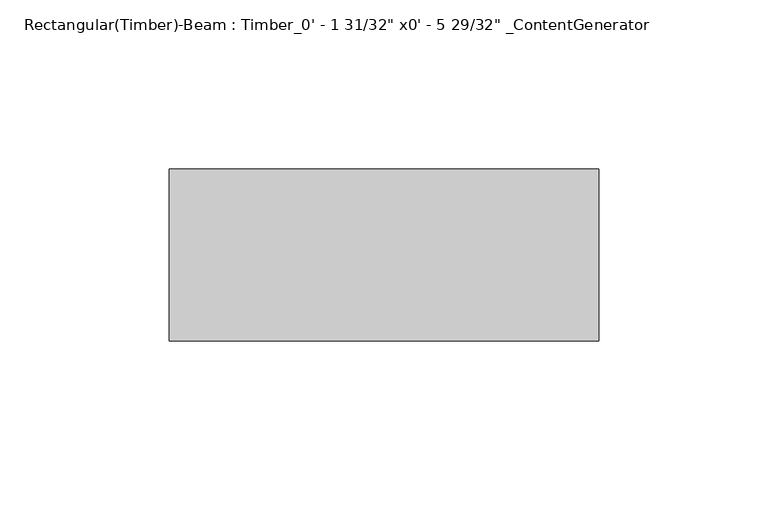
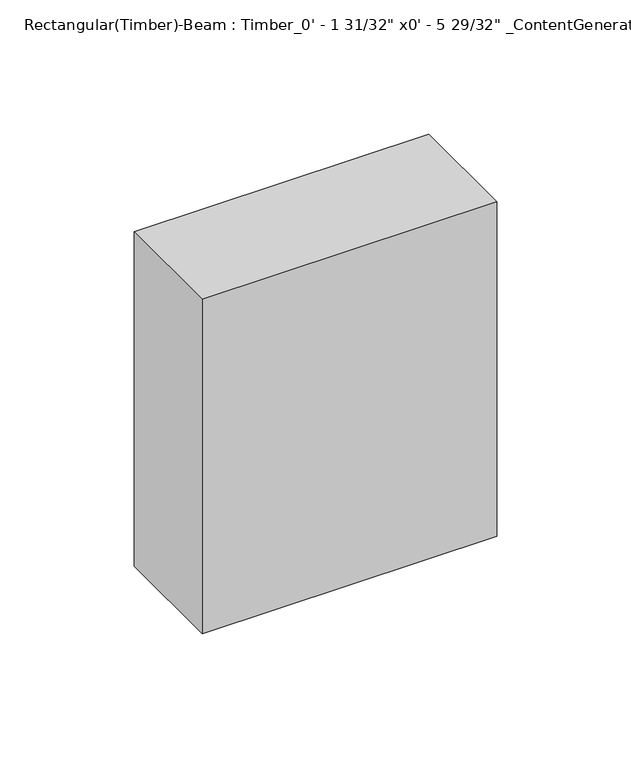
"""IFC4 building model written with IfcOpenShell, lengths in millimetres: beam geometry."""

from ifc_helpers import new_model, si_unit, frame, origin, place, context, project, spatial, polyline, outline, extrude, source, transform, mapped, element, save


def beam_f315523f(model_context):
    return source(origin(), model_context, "Body", "SweptSolid", [
        extrude(outline(polyline([(63.4949997, 25.4), (63.4949997, -25.4), (-63.4949997, -25.4), (-63.4949997, 25.4), (63.4949997, 25.4)])), frame((0.0, 0.0, -76.2), z_axis=(0.0, 0.0, 1.0), x_axis=(1.0, 0.0, 0.0)), (0.0, 0.0, 1.0), 152.4),
    ])


if __name__ == "__main__":
    model = new_model("IFC4")
    model_context = context("Model", 3, world=origin())
    ifc_project = project(units=[si_unit("LENGTHUNIT", "METRE", prefix="MILLI")], contexts=[model_context])
    site = spatial("IfcSite", under=ifc_project)
    building = spatial("IfcBuilding", under=site)
    placement = place(None, origin())
    beam_shape = beam_f315523f(model_context)
    element("IfcBeam", 1, ObjectType="Rectangular(Timber)-Beam : Timber_0' - 1 31/32\" x0' - 5 29/32\" _ContentGenerator", at=placement, inside=building, context=model_context, shape_type="MappedRepresentation", body=[
        mapped(beam_shape, transform((0.0, 0.0, 0.0), x_axis=(1.0, 0.0, 0.0), y_axis=(0.0, 1.0, 0.0), z_axis=(0.0, 0.0, 1.0))),
    ])
    save(model, "model.ifc")
